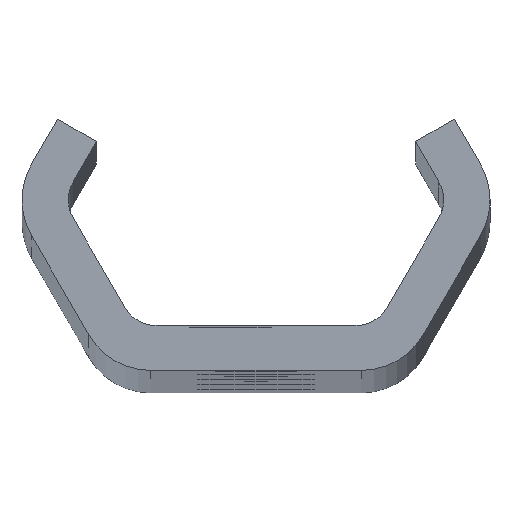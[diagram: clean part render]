
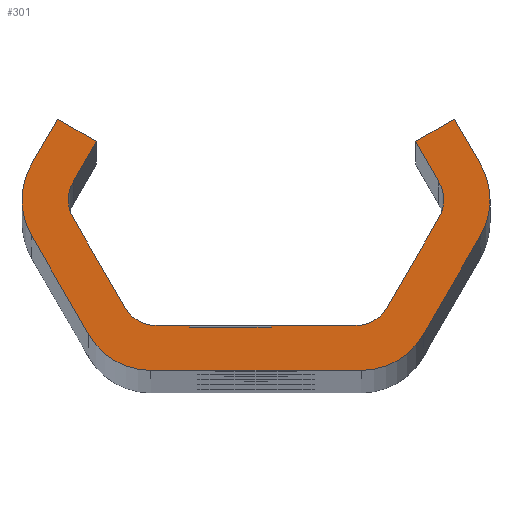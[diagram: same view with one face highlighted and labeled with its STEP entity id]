
A CAD part, top view. The second image highlights one B-rep face of the part: STEP entity #301.
In plain terms, the highlighted planar face has unit normal (0, 0, 1).
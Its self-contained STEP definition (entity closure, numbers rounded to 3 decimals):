
#301=ADVANCED_FACE('NONE',(#778),#779,.F.);
#778=FACE_OUTER_BOUND('',#2267,.T.);
#779=PLANE('',#2268);
#2267=EDGE_LOOP('',(#4660,#4661,#4662,#4663,#4664,#4665,#4666,#4667,#4668,#4669,#4670,#4671,#4672,#4673,#4674,#4675,#4676,#4677,#4678,#4679,#4680,#4681,#4682,#4683,#4684,#4685,#4686,#4687));
#2268=AXIS2_PLACEMENT_3D('',#4688,#4689,#4690);
#4660=ORIENTED_EDGE('',*,*,#6189,.F.);
#4661=ORIENTED_EDGE('',*,*,#6190,.T.);
#4662=ORIENTED_EDGE('',*,*,#6057,.F.);
#4663=ORIENTED_EDGE('',*,*,#6191,.T.);
#4664=ORIENTED_EDGE('',*,*,#6155,.T.);
#4665=ORIENTED_EDGE('',*,*,#6192,.T.);
#4666=ORIENTED_EDGE('',*,*,#5905,.T.);
#4667=ORIENTED_EDGE('',*,*,#6158,.T.);
#4668=ORIENTED_EDGE('',*,*,#6164,.T.);
#4669=ORIENTED_EDGE('',*,*,#6168,.T.);
#4670=ORIENTED_EDGE('',*,*,#6193,.T.);
#4671=ORIENTED_EDGE('',*,*,#5977,.T.);
#4672=ORIENTED_EDGE('',*,*,#6172,.T.);
#4673=ORIENTED_EDGE('',*,*,#6194,.T.);
#4674=ORIENTED_EDGE('',*,*,#6174,.T.);
#4675=ORIENTED_EDGE('',*,*,#6195,.T.);
#4676=ORIENTED_EDGE('',*,*,#6183,.F.);
#4677=ORIENTED_EDGE('',*,*,#6196,.T.);
#4678=ORIENTED_EDGE('',*,*,#5910,.T.);
#4679=ORIENTED_EDGE('',*,*,#6186,.F.);
#4680=ORIENTED_EDGE('',*,*,#6040,.F.);
#4681=ORIENTED_EDGE('',*,*,#6044,.F.);
#4682=ORIENTED_EDGE('',*,*,#5974,.T.);
#4683=ORIENTED_EDGE('',*,*,#6197,.T.);
#4684=ORIENTED_EDGE('',*,*,#6048,.F.);
#4685=ORIENTED_EDGE('',*,*,#6198,.T.);
#4686=ORIENTED_EDGE('',*,*,#6053,.F.);
#4687=ORIENTED_EDGE('',*,*,#6199,.T.);
#4688=CARTESIAN_POINT('',(0.0,0.0,720.0));
#4689=DIRECTION('',(0.0,0.0,-1.0));
#4690=DIRECTION('',(0.0,-1.0,0.0));
#5905=EDGE_CURVE('NONE',#6597,#6601,#6603,.T.);
#5910=EDGE_CURVE('NONE',#6606,#6610,#6612,.T.);
#5974=EDGE_CURVE('NONE',#6727,#6725,#6728,.T.);
#5977=EDGE_CURVE('NONE',#6731,#6732,#6733,.T.);
#6040=EDGE_CURVE('NONE',#6827,#6829,#6830,.T.);
#6044=EDGE_CURVE('NONE',#6727,#6827,#6834,.T.);
#6048=EDGE_CURVE('NONE',#6839,#6841,#6842,.T.);
#6053=EDGE_CURVE('NONE',#6848,#6850,#6851,.T.);
#6057=EDGE_CURVE('NONE',#6856,#6846,#6858,.T.);
#6155=EDGE_CURVE('NONE',#7046,#7044,#7047,.T.);
#6158=EDGE_CURVE('NONE',#6601,#7050,#7051,.T.);
#6164=EDGE_CURVE('NONE',#7050,#7058,#7060,.T.);
#6168=EDGE_CURVE('NONE',#7058,#7064,#7066,.T.);
#6172=EDGE_CURVE('NONE',#6732,#7070,#7072,.T.);
#6174=EDGE_CURVE('NONE',#7074,#7075,#7076,.T.);
#6183=EDGE_CURVE('NONE',#7088,#7090,#7091,.T.);
#6186=EDGE_CURVE('NONE',#6829,#6610,#7094,.T.);
#6189=EDGE_CURVE('NONE',#7097,#7098,#7099,.T.);
#6190=EDGE_CURVE('NONE',#7097,#6846,#7100,.T.);
#6191=EDGE_CURVE('NONE',#6856,#7046,#7101,.T.);
#6192=EDGE_CURVE('NONE',#7044,#6597,#7102,.T.);
#6193=EDGE_CURVE('NONE',#7064,#6731,#7103,.T.);
#6194=EDGE_CURVE('NONE',#7070,#7074,#7104,.T.);
#6195=EDGE_CURVE('NONE',#7075,#7090,#7105,.T.);
#6196=EDGE_CURVE('NONE',#7088,#6606,#7106,.T.);
#6197=EDGE_CURVE('NONE',#6725,#6841,#7107,.T.);
#6198=EDGE_CURVE('NONE',#6839,#6850,#7108,.T.);
#6199=EDGE_CURVE('NONE',#6848,#7098,#7109,.T.);
#6597=VERTEX_POINT('',#7625);
#6601=VERTEX_POINT('NONE',#7630);
#6603=CIRCLE('',#7633,2.0);
#6606=VERTEX_POINT('',#7636);
#6610=VERTEX_POINT('NONE',#7641);
#6612=CIRCLE('',#7644,4.0);
#6725=VERTEX_POINT('NONE',#8635);
#6727=VERTEX_POINT('NONE',#8638);
#6728=CIRCLE('',#8639,2.0);
#6731=VERTEX_POINT('NONE',#8643);
#6732=VERTEX_POINT('NONE',#8644);
#6733=CIRCLE('',#8645,4.0);
#6827=VERTEX_POINT('NONE',#8756);
#6829=VERTEX_POINT('NONE',#8759);
#6830=LINE('',#8760,#8761);
#6834=LINE('',#8767,#8768);
#6839=VERTEX_POINT('NONE',#8774);
#6841=VERTEX_POINT('NONE',#8777);
#6842=LINE('',#8778,#8779);
#6846=VERTEX_POINT('NONE',#8784);
#6848=VERTEX_POINT('NONE',#8787);
#6850=VERTEX_POINT('NONE',#8790);
#6851=LINE('',#8791,#8792);
#6856=VERTEX_POINT('NONE',#8799);
#6858=LINE('',#8802,#8803);
#7044=VERTEX_POINT('NONE',#9538);
#7046=VERTEX_POINT('NONE',#9541);
#7047=LINE('',#9542,#9543);
#7050=VERTEX_POINT('NONE',#9547);
#7051=LINE('',#9548,#9549);
#7058=VERTEX_POINT('NONE',#9559);
#7060=LINE('',#9562,#9563);
#7064=VERTEX_POINT('NONE',#9568);
#7066=LINE('',#9571,#9572);
#7070=VERTEX_POINT('NONE',#9577);
#7072=LINE('',#9580,#9581);
#7074=VERTEX_POINT('NONE',#9583);
#7075=VERTEX_POINT('NONE',#9584);
#7076=LINE('',#9585,#9586);
#7088=VERTEX_POINT('NONE',#9602);
#7090=VERTEX_POINT('NONE',#9605);
#7091=LINE('',#9606,#9607);
#7094=LINE('',#9611,#9612);
#7097=VERTEX_POINT('NONE',#9616);
#7098=VERTEX_POINT('NONE',#9617);
#7099=LINE('',#9618,#9619);
#7100=LINE('',#9620,#9621);
#7101=CIRCLE('',#9622,2.0);
#7102=CIRCLE('',#9623,2.0);
#7103=CIRCLE('',#9624,4.0);
#7104=CIRCLE('',#9625,4.0);
#7105=CIRCLE('',#9626,4.0);
#7106=CIRCLE('',#9627,4.0);
#7107=CIRCLE('',#9628,2.0);
#7108=CIRCLE('',#9629,2.0);
#7109=LINE('',#9630,#9631);
#7625=CARTESIAN_POINT('',(-10.455,0.,720.0));
#7630=CARTESIAN_POINT('',(-10.187,1.,720.0));
#7633=AXIS2_PLACEMENT_3D('',#11365,#11366,#11367);
#7636=CARTESIAN_POINT('',(13.032,0.,720.0));
#7641=CARTESIAN_POINT('',(12.496,2.,720.0));
#7644=AXIS2_PLACEMENT_3D('',#11373,#11374,#11375);
#8635=CARTESIAN_POINT('',(10.455,0.,720.0));
#8638=CARTESIAN_POINT('',(10.187,1.,720.0));
#8639=AXIS2_PLACEMENT_3D('',#11416,#11417,#11418);
#8643=CARTESIAN_POINT('',(-13.032,0.,720.0));
#8644=CARTESIAN_POINT('',(-12.496,-2.,720.0));
#8645=AXIS2_PLACEMENT_3D('',#11420,#11421,#11422);
#8756=CARTESIAN_POINT('',(8.888,3.25,720.0));
#8759=CARTESIAN_POINT('',(11.053,4.5,720.0));
#8760=CARTESIAN_POINT('',(8.888,3.25,720.0));
#8761=VECTOR('',#11528,1000.0);
#8767=CARTESIAN_POINT('',(10.764,0.,720.0));
#8768=VECTOR('',#11531,1000.0);
#8774=CARTESIAN_POINT('',(7.3,-6.,720.0));
#8777=CARTESIAN_POINT('',(10.187,-1.,720.0));
#8778=CARTESIAN_POINT('',(6.723,-7.0,720.0));
#8779=VECTOR('',#11534,1000.0);
#8784=CARTESIAN_POINT('',(-3.702,-7.0,720.0));
#8787=CARTESIAN_POINT('',(0.841,-7.0,720.0));
#8790=CARTESIAN_POINT('',(5.568,-7.0,720.0));
#8791=CARTESIAN_POINT('',(-6.723,-7.0,720.0));
#8792=VECTOR('',#11538,1000.0);
#8799=CARTESIAN_POINT('',(-5.568,-7.0,720.0));
#8802=CARTESIAN_POINT('',(-6.723,-7.0,720.0));
#8803=VECTOR('',#11542,1000.0);
#9538=CARTESIAN_POINT('',(-10.187,-1.,720.0));
#9541=CARTESIAN_POINT('',(-7.3,-6.,720.0));
#9542=CARTESIAN_POINT('',(-6.723,-7.0,720.0));
#9543=VECTOR('',#11632,1000.0);
#9547=CARTESIAN_POINT('',(-8.888,3.25,720.0));
#9548=CARTESIAN_POINT('',(-10.764,0.0,720.0));
#9549=VECTOR('',#11634,1000.0);
#9559=CARTESIAN_POINT('',(-11.053,4.5,720.0));
#9562=CARTESIAN_POINT('',(-8.888,3.25,720.0));
#9563=VECTOR('',#11639,1000.0);
#9568=CARTESIAN_POINT('',(-12.496,2.0,720.0));
#9571=CARTESIAN_POINT('',(-11.053,4.5,720.0));
#9572=VECTOR('',#11642,1000.0);
#9577=CARTESIAN_POINT('',(-9.321,-7.5,720.0));
#9580=CARTESIAN_POINT('',(-13.651,0.0,720.0));
#9581=VECTOR('',#11645,1000.0);
#9583=CARTESIAN_POINT('',(-5.857,-9.5,720.0));
#9584=CARTESIAN_POINT('',(5.857,-9.5,720.0));
#9585=CARTESIAN_POINT('',(-8.166,-9.5,720.0));
#9586=VECTOR('',#11646,1000.0);
#9602=CARTESIAN_POINT('',(12.496,-2.,720.0));
#9605=CARTESIAN_POINT('',(9.321,-7.5,720.0));
#9606=CARTESIAN_POINT('',(13.651,0.,720.0));
#9607=VECTOR('',#11658,1000.0);
#9611=CARTESIAN_POINT('',(11.053,4.5,720.0));
#9612=VECTOR('',#11660,1000.0);
#9616=CARTESIAN_POINT('',(-3.702,-7.1,720.0));
#9617=CARTESIAN_POINT('',(0.841,-7.1,720.0));
#9618=CARTESIAN_POINT('',(0.,-7.1,720.0));
#9619=VECTOR('',#11662,1000.0);
#9620=CARTESIAN_POINT('',(-3.702,0.,720.0));
#9621=VECTOR('',#11663,1000.0);
#9622=AXIS2_PLACEMENT_3D('',#11664,#11665,#11666);
#9623=AXIS2_PLACEMENT_3D('',#11667,#11668,#11669);
#9624=AXIS2_PLACEMENT_3D('',#11670,#11671,#11672);
#9625=AXIS2_PLACEMENT_3D('',#11673,#11674,#11675);
#9626=AXIS2_PLACEMENT_3D('',#11676,#11677,#11678);
#9627=AXIS2_PLACEMENT_3D('',#11679,#11680,#11681);
#9628=AXIS2_PLACEMENT_3D('',#11682,#11683,#11684);
#9629=AXIS2_PLACEMENT_3D('',#11685,#11686,#11687);
#9630=CARTESIAN_POINT('',(0.841,0.,720.0));
#9631=VECTOR('',#11688,1000.0);
#11365=CARTESIAN_POINT('',(-8.455,0.,720.0));
#11366=DIRECTION('',(0.0,0.0,-1.0));
#11367=DIRECTION('',(-1.0,0.0,0.0));
#11373=CARTESIAN_POINT('',(9.032,0.,720.0));
#11374=DIRECTION('',(0.0,0.0,1.0));
#11375=DIRECTION('',(-1.0,0.0,0.0));
#11416=CARTESIAN_POINT('',(8.455,0.,720.0));
#11417=DIRECTION('',(0.0,0.0,-1.0));
#11418=DIRECTION('',(-1.0,0.0,0.0));
#11420=CARTESIAN_POINT('',(-9.032,0.,720.0));
#11421=DIRECTION('',(0.0,0.0,1.0));
#11422=DIRECTION('',(-1.0,0.0,0.0));
#11528=DIRECTION('',(0.866,0.5,0.0));
#11531=DIRECTION('',(-0.5,0.866,0.0));
#11534=DIRECTION('',(0.5,0.866,0.0));
#11538=DIRECTION('',(1.0,0.,0.0));
#11542=DIRECTION('',(1.0,0.,0.0));
#11632=DIRECTION('',(-0.5,0.866,0.0));
#11634=DIRECTION('',(0.5,0.866,0.0));
#11639=DIRECTION('',(-0.866,0.5,0.0));
#11642=DIRECTION('',(-0.5,-0.866,0.0));
#11645=DIRECTION('',(0.5,-0.866,0.0));
#11646=DIRECTION('',(1.0,0.,0.0));
#11658=DIRECTION('',(-0.5,-0.866,0.0));
#11660=DIRECTION('',(0.5,-0.866,0.0));
#11662=DIRECTION('',(1.0,0.,0.0));
#11663=DIRECTION('',(0.,1.0,0.0));
#11664=CARTESIAN_POINT('',(-5.568,-5.0,720.0));
#11665=DIRECTION('',(0.0,0.0,-1.0));
#11666=DIRECTION('',(-1.0,0.0,0.0));
#11667=CARTESIAN_POINT('',(-8.455,0.,720.0));
#11668=DIRECTION('',(0.0,0.0,-1.0));
#11669=DIRECTION('',(-1.0,0.0,0.0));
#11670=CARTESIAN_POINT('',(-9.032,0.,720.0));
#11671=DIRECTION('',(0.0,0.0,1.0));
#11672=DIRECTION('',(-1.0,0.,0.0));
#11673=CARTESIAN_POINT('',(-5.857,-5.5,720.0));
#11674=DIRECTION('',(0.0,0.0,1.0));
#11675=DIRECTION('',(-1.0,0.0,0.0));
#11676=CARTESIAN_POINT('',(5.857,-5.5,720.0));
#11677=DIRECTION('',(0.0,0.0,1.0));
#11678=DIRECTION('',(-1.0,0.0,0.0));
#11679=CARTESIAN_POINT('',(9.032,0.,720.0));
#11680=DIRECTION('',(0.0,0.0,1.0));
#11681=DIRECTION('',(-1.0,0.0,0.0));
#11682=CARTESIAN_POINT('',(8.455,0.,720.0));
#11683=DIRECTION('',(0.0,0.0,-1.0));
#11684=DIRECTION('',(-1.0,0.0,0.0));
#11685=CARTESIAN_POINT('',(5.568,-5.0,720.0));
#11686=DIRECTION('',(0.0,0.0,-1.0));
#11687=DIRECTION('',(-1.0,0.0,0.0));
#11688=DIRECTION('',(0.,-1.0,0.0));
